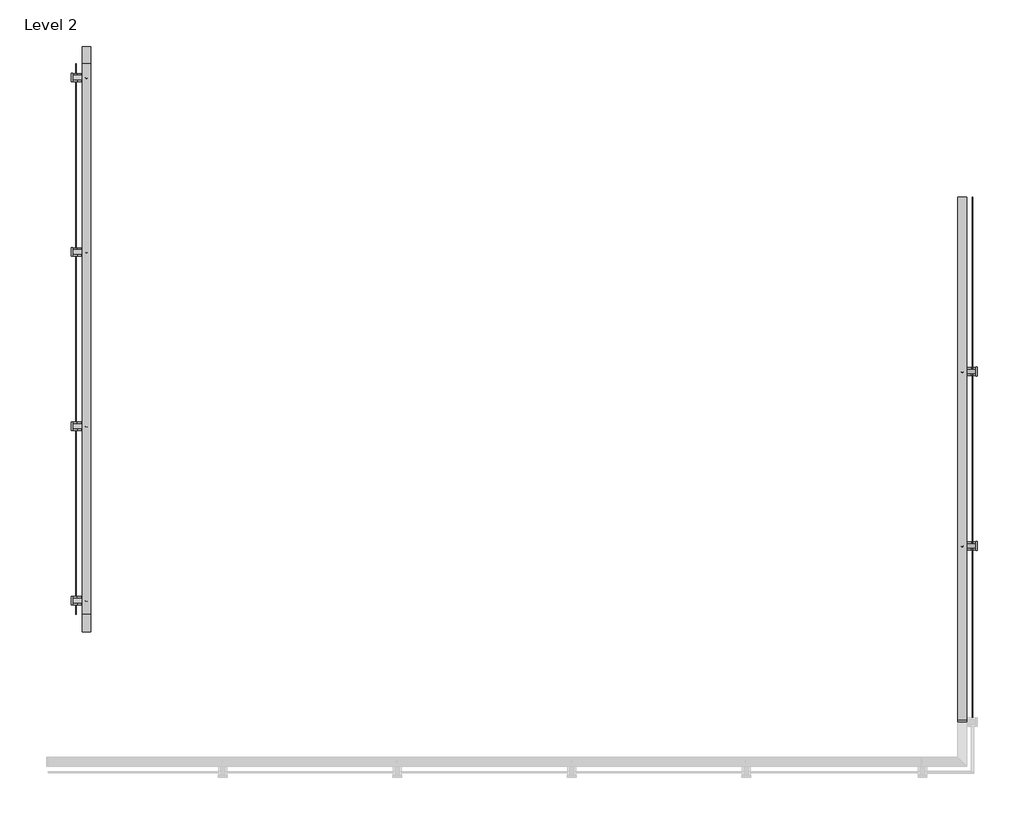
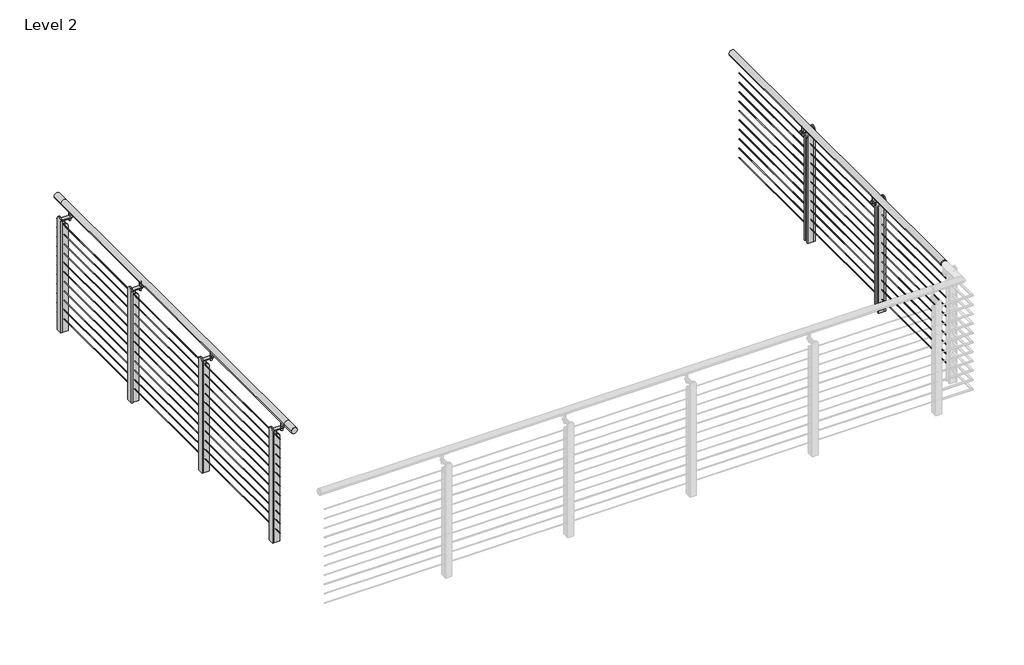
# One storey, part 12 of 12: 2 railings.
"""IFC4 building model written with IfcOpenShell, lengths in millimetres."""

from ifc_helpers import new_model, si_unit, point, frame, frame_2d, origin, place, context, project, spatial, polyline, circle_curve, trimmed, segment, composite_curve, outline, extrude, element, save
from ifc_brep_helpers import plane_surface, cylinder_surface, advanced_brep

model = new_model("IFC4")

# Units and contexts
model_context = context("Model", 3, world=origin())
ifc_project = project(units=[si_unit("LENGTHUNIT", "METRE", prefix="MILLI")], contexts=[model_context])

# Site, building, storey
site = spatial("IfcSite", under=ifc_project)
building = spatial("IfcBuilding", under=site)
storey = spatial("IfcBuildingStorey", under=building, Name="Level 2", Elevation=3048.0)

# Railings
placement = place(None, origin())
element("IfcRailing", 1, ObjectType="VIVA-TEE-Cable-Weld Mount-Straight", at=placement, inside=storey, context=model_context, shape_type="SolidModel", body=[
    advanced_brep(
    [(-8848.9177073, -335.1648568, 4102.1), (-8899.7177073, -335.1648568, 4102.1), (-8848.9177073, -233.5648568, 4102.1), (-8899.7177073, -233.5648568, 4102.1), (-8848.9177073, 2973.8965489, 4102.1), (-8899.7177073, 2973.8965489, 4102.1), (-8848.9177073, 3075.4965489, 4102.1), (-8899.7177073, 3075.4965489, 4102.1)],
    [
        (0, 1, circle_curve(frame((-8874.3177073, -335.1648568, 4102.1), z_axis=(0.0, -1.0, 0.0), x_axis=(-1.0, 0.0, 0.0)), 25.4)),
        (1, 0, circle_curve(frame((-8874.3177073, -335.1648568, 4102.1), z_axis=(0.0, -1.0, 0.0), x_axis=(-1.0, 0.0, 0.0)), 25.4)),
        (0, 2),
        (2, 3, circle_curve(frame((-8874.3177073, -233.5648568, 4102.1), z_axis=(0.0, -1.0, 0.0), x_axis=(-1.0, 0.0, 0.0)), 25.4)),
        (3, 1),
        (3, 2, circle_curve(frame((-8874.3177073, -233.5648568, 4102.1), z_axis=(0.0, -1.0, 0.0), x_axis=(-1.0, 0.0, 0.0)), 25.4)),
        (2, 4),
        (4, 5, circle_curve(frame((-8874.3177073, 2973.8965489, 4102.1), z_axis=(0.0, -1.0, 0.0), x_axis=(-1.0, 0.0, 0.0)), 25.4)),
        (5, 3),
        (5, 4, circle_curve(frame((-8874.3177073, 2973.8965489, 4102.1), z_axis=(0.0, -1.0, 0.0), x_axis=(-1.0, 0.0, 0.0)), 25.4)),
        (6, 7, circle_curve(frame((-8874.3177073, 3075.4965489, 4102.1), z_axis=(0.0, 1.0, 0.0), x_axis=(-1.0, 0.0, 0.0)), 25.4)),
        (7, 6, circle_curve(frame((-8874.3177073, 3075.4965489, 4102.1), z_axis=(0.0, 1.0, 0.0), x_axis=(-1.0, 0.0, 0.0)), 25.4)),
        (4, 6),
        (7, 5),
    ],
    [
        plane_surface(frame((-8874.3177073, -335.1648568, 4127.5), z_axis=(0.0, -1.0, 0.0), x_axis=(0.0, 0.0, 1.0))),
        cylinder_surface(frame((-8874.3177073, -335.1648568, 4102.1), z_axis=(0.0, -1.0, 0.0), x_axis=(-1.0, 0.0, 0.0)), 25.4),
        cylinder_surface(frame((-8874.3177073, -233.5648568, 4102.1), z_axis=(0.0, -1.0, 0.0), x_axis=(-1.0, 0.0, 0.0)), 25.4),
        plane_surface(frame((-8874.3177073, 3075.4965489, 4127.5), z_axis=(0.0, 1.0, 0.0), x_axis=(0.0, 0.0, 1.0))),
        cylinder_surface(frame((-8874.3177073, 2973.8965489, 4102.1), z_axis=(0.0, -1.0, 0.0), x_axis=(-1.0, 0.0, 0.0)), 25.4),
    ],
    [
        (0, [[1, 2]]),
        (1, [[-1, 3, 4, 5]]),
        (1, [[-2, -5, 6, -3]]),
        (2, [[-4, 7, 8, 9]]),
        (2, [[-6, -9, 10, -7]]),
        (3, [[11, 12]]),
        (4, [[-8, 13, -12, 14]]),
        (4, [[-10, -14, -11, -13]]),
    ],
),
    extrude(outline(composite_curve([segment(trimmed(circle_curve(frame_2d((3985.4124, -8934.6427073)), 2.3876), [point((3985.4124, -8932.2551073))], [point((3985.4124, -8937.0303073))], False, "CARTESIAN"), True, "CONTINUOUS"), segment(trimmed(circle_curve(frame_2d((3985.4124, -8934.6427073)), 2.3876), [point((3985.4124, -8937.0303073))], [point((3985.4124, -8932.2551073))], False, "CARTESIAN"), True, "CONTINUOUS")], self_intersect=False)), frame((0.0, -233.5648568, 0.0), z_axis=(0.0, 1.0, 0.0), x_axis=(0.0, 0.0, 1.0)), (0.0, 0.0, 1.0), 3207.4614057),
    extrude(outline(composite_curve([segment(trimmed(circle_curve(frame_2d((3902.8624, -8934.6427073)), 2.3876), [point((3902.8624, -8932.2551073))], [point((3902.8624, -8937.0303073))], False, "CARTESIAN"), True, "CONTINUOUS"), segment(trimmed(circle_curve(frame_2d((3902.8624, -8934.6427073)), 2.3876), [point((3902.8624, -8937.0303073))], [point((3902.8624, -8932.2551073))], False, "CARTESIAN"), True, "CONTINUOUS")], self_intersect=False)), frame((0.0, -233.5648568, 0.0), z_axis=(0.0, 1.0, 0.0), x_axis=(0.0, 0.0, 1.0)), (0.0, 0.0, 1.0), 3207.4614057),
    extrude(outline(composite_curve([segment(trimmed(circle_curve(frame_2d((3820.3124, -8934.6427073)), 2.3876), [point((3820.3124, -8932.2551073))], [point((3820.3124, -8937.0303073))], False, "CARTESIAN"), True, "CONTINUOUS"), segment(trimmed(circle_curve(frame_2d((3820.3124, -8934.6427073)), 2.3876), [point((3820.3124, -8937.0303073))], [point((3820.3124, -8932.2551073))], False, "CARTESIAN"), True, "CONTINUOUS")], self_intersect=False)), frame((0.0, -233.5648568, 0.0), z_axis=(0.0, 1.0, 0.0), x_axis=(0.0, 0.0, 1.0)), (0.0, 0.0, 1.0), 3207.4614057),
    extrude(outline(composite_curve([segment(trimmed(circle_curve(frame_2d((3737.7624, -8934.6427073)), 2.3876), [point((3737.7624, -8932.2551073))], [point((3737.7624, -8937.0303073))], False, "CARTESIAN"), True, "CONTINUOUS"), segment(trimmed(circle_curve(frame_2d((3737.7624, -8934.6427073)), 2.3876), [point((3737.7624, -8937.0303073))], [point((3737.7624, -8932.2551073))], False, "CARTESIAN"), True, "CONTINUOUS")], self_intersect=False)), frame((0.0, -233.5648568, 0.0), z_axis=(0.0, 1.0, 0.0), x_axis=(0.0, 0.0, 1.0)), (0.0, 0.0, 1.0), 3207.4614057),
    extrude(outline(composite_curve([segment(trimmed(circle_curve(frame_2d((3655.2124, -8934.6427073)), 2.3876), [point((3655.2124, -8932.2551073))], [point((3655.2124, -8937.0303073))], False, "CARTESIAN"), True, "CONTINUOUS"), segment(trimmed(circle_curve(frame_2d((3655.2124, -8934.6427073)), 2.3876), [point((3655.2124, -8937.0303073))], [point((3655.2124, -8932.2551073))], False, "CARTESIAN"), True, "CONTINUOUS")], self_intersect=False)), frame((0.0, -233.5648568, 0.0), z_axis=(0.0, 1.0, 0.0), x_axis=(0.0, 0.0, 1.0)), (0.0, 0.0, 1.0), 3207.4614057),
    extrude(outline(composite_curve([segment(trimmed(circle_curve(frame_2d((3572.6624, -8934.6427073)), 2.3876), [point((3572.6624, -8932.2551073))], [point((3572.6624, -8937.0303073))], False, "CARTESIAN"), True, "CONTINUOUS"), segment(trimmed(circle_curve(frame_2d((3572.6624, -8934.6427073)), 2.3876), [point((3572.6624, -8937.0303073))], [point((3572.6624, -8932.2551073))], False, "CARTESIAN"), True, "CONTINUOUS")], self_intersect=False)), frame((0.0, -233.5648568, 0.0), z_axis=(0.0, 1.0, 0.0), x_axis=(0.0, 0.0, 1.0)), (0.0, 0.0, 1.0), 3207.4614057),
    extrude(outline(composite_curve([segment(trimmed(circle_curve(frame_2d((3490.1124, -8934.6427073)), 2.3876), [point((3490.1124, -8932.2551073))], [point((3490.1124, -8937.0303073))], False, "CARTESIAN"), True, "CONTINUOUS"), segment(trimmed(circle_curve(frame_2d((3490.1124, -8934.6427073)), 2.3876), [point((3490.1124, -8937.0303073))], [point((3490.1124, -8932.2551073))], False, "CARTESIAN"), True, "CONTINUOUS")], self_intersect=False)), frame((0.0, -233.5648568, 0.0), z_axis=(0.0, 1.0, 0.0), x_axis=(0.0, 0.0, 1.0)), (0.0, 0.0, 1.0), 3207.4614057),
    extrude(outline(composite_curve([segment(trimmed(circle_curve(frame_2d((3407.5624, -8934.6427073)), 2.3876), [point((3407.5624, -8932.2551073))], [point((3407.5624, -8937.0303073))], False, "CARTESIAN"), True, "CONTINUOUS"), segment(trimmed(circle_curve(frame_2d((3407.5624, -8934.6427073)), 2.3876), [point((3407.5624, -8937.0303073))], [point((3407.5624, -8932.2551073))], False, "CARTESIAN"), True, "CONTINUOUS")], self_intersect=False)), frame((0.0, -233.5648568, 0.0), z_axis=(0.0, 1.0, 0.0), x_axis=(0.0, 0.0, 1.0)), (0.0, 0.0, 1.0), 3207.4614057),
    extrude(outline(composite_curve([segment(trimmed(circle_curve(frame_2d((3325.0124, -8934.6427073)), 2.3876), [point((3325.0124, -8932.2551073))], [point((3325.0124, -8937.0303073))], False, "CARTESIAN"), True, "CONTINUOUS"), segment(trimmed(circle_curve(frame_2d((3325.0124, -8934.6427073)), 2.3876), [point((3325.0124, -8937.0303073))], [point((3325.0124, -8932.2551073))], False, "CARTESIAN"), True, "CONTINUOUS")], self_intersect=False)), frame((0.0, -233.5648568, 0.0), z_axis=(0.0, 1.0, 0.0), x_axis=(0.0, 0.0, 1.0)), (0.0, 0.0, 1.0), 3207.4614057),
    extrude(outline(composite_curve([segment(trimmed(circle_curve(frame_2d((3242.4624, -8934.6427073)), 2.3876), [point((3242.4624, -8932.2551073))], [point((3242.4624, -8937.0303073))], False, "CARTESIAN"), True, "CONTINUOUS"), segment(trimmed(circle_curve(frame_2d((3242.4624, -8934.6427073)), 2.3876), [point((3242.4624, -8937.0303073))], [point((3242.4624, -8932.2551073))], False, "CARTESIAN"), True, "CONTINUOUS")], self_intersect=False)), frame((0.0, -233.5648568, 0.0), z_axis=(0.0, 1.0, 0.0), x_axis=(0.0, 0.0, 1.0)), (0.0, 0.0, 1.0), 3207.4614057),
    extrude(outline(composite_curve([segment(trimmed(circle_curve(frame_2d((3159.9124, -8934.6427073)), 2.3876), [point((3159.9124, -8932.2551073))], [point((3159.9124, -8937.0303073))], False, "CARTESIAN"), True, "CONTINUOUS"), segment(trimmed(circle_curve(frame_2d((3159.9124, -8934.6427073)), 2.3876), [point((3159.9124, -8937.0303073))], [point((3159.9124, -8932.2551073))], False, "CARTESIAN"), True, "CONTINUOUS")], self_intersect=False)), frame((0.0, -233.5648568, 0.0), z_axis=(0.0, 1.0, 0.0), x_axis=(0.0, 0.0, 1.0)), (0.0, 0.0, 1.0), 3207.4614057),
    extrude(outline(composite_curve([segment(trimmed(circle_curve(frame_2d((0.0, -7.0)), 7.0), [point((0.0, -14.0))], [point((0.0, 0.0))], False, "CARTESIAN"), True, "CONTINUOUS"), segment(trimmed(circle_curve(frame_2d((0.0, -7.0)), 7.0), [point((0.0, 0.0))], [point((0.0, -14.0))], False, "CARTESIAN"), True, "CONTINUOUS")], self_intersect=False)), frame((-8881.0275611, 2894.2395559, 3997.1832524), z_axis=(0.0, 0.004253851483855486, 0.9999909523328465), x_axis=(0.0, 0.9999909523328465, -0.004253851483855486)), (0.0, 0.0, 1.0), 75.97),
    extrude(outline(composite_curve([segment(polyline([(4081.7916463, -8887.4157453), (4080.7742593, -8888.4421349)]), True, "CONTINUOUS"), segment(trimmed(circle_curve(frame_2d((4079.7089374, -8887.3861571)), 1.5), [point((4080.7742593, -8888.4421349))], [point((4078.5780156, -8888.3715585))], False, "CARTESIAN"), True, "CONTINUOUS"), segment(trimmed(circle_curve(frame_2d((4095.2025651, -8873.8861571)), 22.05), [point((4078.5780156, -8888.3715585))], [point((4078.5780156, -8859.4007556))], False, "CARTESIAN"), True, "CONTINUOUS"), segment(trimmed(circle_curve(frame_2d((4079.7089374, -8860.3861571)), 1.5), [point((4078.5780156, -8859.4007556))], [point((4080.7742593, -8859.3301792))], False, "CARTESIAN"), True, "CONTINUOUS"), segment(polyline([(4080.7742593, -8859.3301792), (4081.7916463, -8860.3565688)]), True, "CONTINUOUS"), segment(trimmed(circle_curve(frame_2d((4095.2025651, -8873.8861571)), 19.05), [point((4081.7916463, -8860.3565688))], [point((4081.7916463, -8887.4157453))], True, "CARTESIAN"), True, "CONTINUOUS")], self_intersect=False)), frame((0.0, 2858.7010818, 0.0), z_axis=(0.0, 1.0, 0.0), x_axis=(0.0, 0.0, 1.0)), (0.0, 0.0, 1.0), 74.5229187),
    extrude(outline(composite_curve([segment(trimmed(circle_curve(frame_2d((2894.4438864, 4024.1259188)), 12.5), [point((2881.9438864, 4024.1259188))], [point((2906.9438864, 4024.1259188))], False, "CARTESIAN"), True, "CONTINUOUS"), segment(trimmed(circle_curve(frame_2d((2894.4438864, 4024.1259188)), 12.5), [point((2906.9438864, 4024.1259188))], [point((2881.9438864, 4024.1259188))], False, "CARTESIAN"), True, "CONTINUOUS")], self_intersect=False)), frame((-8953.793547, 0.0, 0.0), z_axis=(1.0, 0.0, 0.0), x_axis=(0.0, 1.0, 0.0)), (0.0, 0.0, 1.0), 92.423),
    extrude(outline(composite_curve([segment(polyline([(3997.0075, -8927.6272558), (3997.0075, -8953.6927073), (3048.0, -8953.6927073), (3048.0, -8902.8622558), (3972.2425, -8902.8622558)]), True, "CONTINUOUS"), segment(trimmed(circle_curve(frame_2d((3972.2425, -8927.6272558)), 24.765), [point((3972.2425, -8902.8622558))], [point((3997.0075, -8927.6272558))], False, "CARTESIAN"), True, "CONTINUOUS")], self_intersect=False)), frame((0.0, 2908.5662206, 0.0), z_axis=(0.0, 1.0, 0.0), x_axis=(0.0, 0.0, 1.0)), (0.0, 0.0, 1.0), 9.525),
    extrude(outline(composite_curve([segment(polyline([(2919.962721, 3048.0), (2869.162721, 3048.0), (2869.162721, 4027.17)]), True, "CONTINUOUS"), segment(trimmed(circle_curve(frame_2d((2894.562721, 4027.17)), 25.4), [point((2869.162721, 4027.17))], [point((2919.962721, 4027.17))], False, "CARTESIAN"), True, "CONTINUOUS"), segment(polyline([(2919.962721, 4027.17), (2919.962721, 3048.0)]), True, "CONTINUOUS")], self_intersect=False)), frame((-8963.2177073, 0.0, 0.0), z_axis=(1.0, 0.0, 0.0), x_axis=(0.0, 1.0, 0.0)), (0.0, 0.0, 1.0), 9.525),
    extrude(outline(composite_curve([segment(polyline([(3997.0075, -8927.6272558), (3997.0075, -8953.6927073), (3048.0, -8953.6927073), (3048.0, -8902.8622558), (3972.2425, -8902.8622558)]), True, "CONTINUOUS"), segment(trimmed(circle_curve(frame_2d((3972.2425, -8927.6272558)), 24.765), [point((3972.2425, -8902.8622558))], [point((3997.0075, -8927.6272558))], False, "CARTESIAN"), True, "CONTINUOUS")], self_intersect=False)), frame((0.0, 2871.0342215, 0.0), z_axis=(0.0, 1.0, 0.0), x_axis=(0.0, 0.0, 1.0)), (0.0, 0.0, 1.0), 9.525),
    extrude(outline(composite_curve([segment(trimmed(circle_curve(frame_2d((0.0, -7.0)), 7.0), [point((0.0, -14.0))], [point((0.0, 0.0))], False, "CARTESIAN"), True, "CONTINUOUS"), segment(trimmed(circle_curve(frame_2d((0.0, -7.0)), 7.0), [point((0.0, 0.0))], [point((0.0, -14.0))], False, "CARTESIAN"), True, "CONTINUOUS")], self_intersect=False)), frame((-8881.0275611, 1878.2395559, 3997.1832524), z_axis=(0.0, 0.004253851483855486, 0.9999909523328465), x_axis=(0.0, 0.9999909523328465, -0.004253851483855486)), (0.0, 0.0, 1.0), 75.97),
    extrude(outline(composite_curve([segment(polyline([(4081.7916463, -8887.4157453), (4080.7742593, -8888.4421349)]), True, "CONTINUOUS"), segment(trimmed(circle_curve(frame_2d((4079.7089374, -8887.3861571)), 1.5), [point((4080.7742593, -8888.4421349))], [point((4078.5780156, -8888.3715585))], False, "CARTESIAN"), True, "CONTINUOUS"), segment(trimmed(circle_curve(frame_2d((4095.2025651, -8873.8861571)), 22.05), [point((4078.5780156, -8888.3715585))], [point((4078.5780156, -8859.4007556))], False, "CARTESIAN"), True, "CONTINUOUS"), segment(trimmed(circle_curve(frame_2d((4079.7089374, -8860.3861571)), 1.5), [point((4078.5780156, -8859.4007556))], [point((4080.7742593, -8859.3301792))], False, "CARTESIAN"), True, "CONTINUOUS"), segment(polyline([(4080.7742593, -8859.3301792), (4081.7916463, -8860.3565688)]), True, "CONTINUOUS"), segment(trimmed(circle_curve(frame_2d((4095.2025651, -8873.8861571)), 19.05), [point((4081.7916463, -8860.3565688))], [point((4081.7916463, -8887.4157453))], True, "CARTESIAN"), True, "CONTINUOUS")], self_intersect=False)), frame((0.0, 1842.7010818, 0.0), z_axis=(0.0, 1.0, 0.0), x_axis=(0.0, 0.0, 1.0)), (0.0, 0.0, 1.0), 74.5229187),
    extrude(outline(composite_curve([segment(trimmed(circle_curve(frame_2d((1878.4438864, 4024.1259188)), 12.5), [point((1865.9438864, 4024.1259188))], [point((1890.9438864, 4024.1259188))], False, "CARTESIAN"), True, "CONTINUOUS"), segment(trimmed(circle_curve(frame_2d((1878.4438864, 4024.1259188)), 12.5), [point((1890.9438864, 4024.1259188))], [point((1865.9438864, 4024.1259188))], False, "CARTESIAN"), True, "CONTINUOUS")], self_intersect=False)), frame((-8953.793547, 0.0, 0.0), z_axis=(1.0, 0.0, 0.0), x_axis=(0.0, 1.0, 0.0)), (0.0, 0.0, 1.0), 92.423),
    extrude(outline(composite_curve([segment(polyline([(3997.0075, -8927.6272558), (3997.0075, -8953.6927073), (3048.0, -8953.6927073), (3048.0, -8902.8622558), (3972.2425, -8902.8622558)]), True, "CONTINUOUS"), segment(trimmed(circle_curve(frame_2d((3972.2425, -8927.6272558)), 24.765), [point((3972.2425, -8902.8622558))], [point((3997.0075, -8927.6272558))], False, "CARTESIAN"), True, "CONTINUOUS")], self_intersect=False)), frame((0.0, 1892.5662206, 0.0), z_axis=(0.0, 1.0, 0.0), x_axis=(0.0, 0.0, 1.0)), (0.0, 0.0, 1.0), 9.525),
    extrude(outline(composite_curve([segment(polyline([(1903.962721, 3048.0), (1853.162721, 3048.0), (1853.162721, 4027.17)]), True, "CONTINUOUS"), segment(trimmed(circle_curve(frame_2d((1878.562721, 4027.17)), 25.4), [point((1853.162721, 4027.17))], [point((1903.962721, 4027.17))], False, "CARTESIAN"), True, "CONTINUOUS"), segment(polyline([(1903.962721, 4027.17), (1903.962721, 3048.0)]), True, "CONTINUOUS")], self_intersect=False)), frame((-8963.2177073, 0.0, 0.0), z_axis=(1.0, 0.0, 0.0), x_axis=(0.0, 1.0, 0.0)), (0.0, 0.0, 1.0), 9.525),
    extrude(outline(composite_curve([segment(polyline([(3997.0075, -8927.6272558), (3997.0075, -8953.6927073), (3048.0, -8953.6927073), (3048.0, -8902.8622558), (3972.2425, -8902.8622558)]), True, "CONTINUOUS"), segment(trimmed(circle_curve(frame_2d((3972.2425, -8927.6272558)), 24.765), [point((3972.2425, -8902.8622558))], [point((3997.0075, -8927.6272558))], False, "CARTESIAN"), True, "CONTINUOUS")], self_intersect=False)), frame((0.0, 1855.0342215, 0.0), z_axis=(0.0, 1.0, 0.0), x_axis=(0.0, 0.0, 1.0)), (0.0, 0.0, 1.0), 9.525),
    extrude(outline(composite_curve([segment(trimmed(circle_curve(frame_2d((0.0, -7.0)), 7.0), [point((0.0, -14.0))], [point((0.0, 0.0))], False, "CARTESIAN"), True, "CONTINUOUS"), segment(trimmed(circle_curve(frame_2d((0.0, -7.0)), 7.0), [point((0.0, 0.0))], [point((0.0, -14.0))], False, "CARTESIAN"), True, "CONTINUOUS")], self_intersect=False)), frame((-8881.0275611, 862.2395559, 3997.1832524), z_axis=(0.0, 0.004253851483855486, 0.9999909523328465), x_axis=(0.0, 0.9999909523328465, -0.004253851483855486)), (0.0, 0.0, 1.0), 75.97),
    extrude(outline(composite_curve([segment(polyline([(4081.7916463, -8887.4157453), (4080.7742593, -8888.4421349)]), True, "CONTINUOUS"), segment(trimmed(circle_curve(frame_2d((4079.7089374, -8887.3861571)), 1.5), [point((4080.7742593, -8888.4421349))], [point((4078.5780156, -8888.3715585))], False, "CARTESIAN"), True, "CONTINUOUS"), segment(trimmed(circle_curve(frame_2d((4095.2025651, -8873.8861571)), 22.05), [point((4078.5780156, -8888.3715585))], [point((4078.5780156, -8859.4007556))], False, "CARTESIAN"), True, "CONTINUOUS"), segment(trimmed(circle_curve(frame_2d((4079.7089374, -8860.3861571)), 1.5), [point((4078.5780156, -8859.4007556))], [point((4080.7742593, -8859.3301792))], False, "CARTESIAN"), True, "CONTINUOUS"), segment(polyline([(4080.7742593, -8859.3301792), (4081.7916463, -8860.3565688)]), True, "CONTINUOUS"), segment(trimmed(circle_curve(frame_2d((4095.2025651, -8873.8861571)), 19.05), [point((4081.7916463, -8860.3565688))], [point((4081.7916463, -8887.4157453))], True, "CARTESIAN"), True, "CONTINUOUS")], self_intersect=False)), frame((0.0, 826.7010818, 0.0), z_axis=(0.0, 1.0, 0.0), x_axis=(0.0, 0.0, 1.0)), (0.0, 0.0, 1.0), 74.5229187),
    extrude(outline(composite_curve([segment(trimmed(circle_curve(frame_2d((862.4438864, 4024.1259188)), 12.5), [point((849.9438864, 4024.1259188))], [point((874.9438864, 4024.1259188))], False, "CARTESIAN"), True, "CONTINUOUS"), segment(trimmed(circle_curve(frame_2d((862.4438864, 4024.1259188)), 12.5), [point((874.9438864, 4024.1259188))], [point((849.9438864, 4024.1259188))], False, "CARTESIAN"), True, "CONTINUOUS")], self_intersect=False)), frame((-8953.793547, 0.0, 0.0), z_axis=(1.0, 0.0, 0.0), x_axis=(0.0, 1.0, 0.0)), (0.0, 0.0, 1.0), 92.423),
    extrude(outline(composite_curve([segment(polyline([(3997.0075, -8927.6272558), (3997.0075, -8953.6927073), (3048.0, -8953.6927073), (3048.0, -8902.8622558), (3972.2425, -8902.8622558)]), True, "CONTINUOUS"), segment(trimmed(circle_curve(frame_2d((3972.2425, -8927.6272558)), 24.765), [point((3972.2425, -8902.8622558))], [point((3997.0075, -8927.6272558))], False, "CARTESIAN"), True, "CONTINUOUS")], self_intersect=False)), frame((0.0, 876.5662206, 0.0), z_axis=(0.0, 1.0, 0.0), x_axis=(0.0, 0.0, 1.0)), (0.0, 0.0, 1.0), 9.525),
    extrude(outline(composite_curve([segment(polyline([(887.962721, 3048.0), (837.162721, 3048.0), (837.162721, 4027.17)]), True, "CONTINUOUS"), segment(trimmed(circle_curve(frame_2d((862.562721, 4027.17)), 25.4), [point((837.162721, 4027.17))], [point((887.962721, 4027.17))], False, "CARTESIAN"), True, "CONTINUOUS"), segment(polyline([(887.962721, 4027.17), (887.962721, 3048.0)]), True, "CONTINUOUS")], self_intersect=False)), frame((-8963.2177073, 0.0, 0.0), z_axis=(1.0, 0.0, 0.0), x_axis=(0.0, 1.0, 0.0)), (0.0, 0.0, 1.0), 9.525),
    extrude(outline(composite_curve([segment(polyline([(3997.0075, -8927.6272558), (3997.0075, -8953.6927073), (3048.0, -8953.6927073), (3048.0, -8902.8622558), (3972.2425, -8902.8622558)]), True, "CONTINUOUS"), segment(trimmed(circle_curve(frame_2d((3972.2425, -8927.6272558)), 24.765), [point((3972.2425, -8902.8622558))], [point((3997.0075, -8927.6272558))], False, "CARTESIAN"), True, "CONTINUOUS")], self_intersect=False)), frame((0.0, 839.0342215, 0.0), z_axis=(0.0, 1.0, 0.0), x_axis=(0.0, 0.0, 1.0)), (0.0, 0.0, 1.0), 9.525),
    extrude(outline(composite_curve([segment(trimmed(circle_curve(frame_2d((0.0, -7.0)), 7.0), [point((0.0, -14.0))], [point((0.0, 0.0))], False, "CARTESIAN"), True, "CONTINUOUS"), segment(trimmed(circle_curve(frame_2d((0.0, -7.0)), 7.0), [point((0.0, 0.0))], [point((0.0, -14.0))], False, "CARTESIAN"), True, "CONTINUOUS")], self_intersect=False)), frame((-8881.0275611, -153.7604441, 3997.1832524), z_axis=(0.0, 0.004253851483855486, 0.9999909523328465), x_axis=(0.0, 0.9999909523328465, -0.004253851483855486)), (0.0, 0.0, 1.0), 75.97),
    extrude(outline(composite_curve([segment(polyline([(4081.7916463, -8887.4157453), (4080.7742593, -8888.4421349)]), True, "CONTINUOUS"), segment(trimmed(circle_curve(frame_2d((4079.7089374, -8887.3861571)), 1.5), [point((4080.7742593, -8888.4421349))], [point((4078.5780156, -8888.3715585))], False, "CARTESIAN"), True, "CONTINUOUS"), segment(trimmed(circle_curve(frame_2d((4095.2025651, -8873.8861571)), 22.05), [point((4078.5780156, -8888.3715585))], [point((4078.5780156, -8859.4007556))], False, "CARTESIAN"), True, "CONTINUOUS"), segment(trimmed(circle_curve(frame_2d((4079.7089374, -8860.3861571)), 1.5), [point((4078.5780156, -8859.4007556))], [point((4080.7742593, -8859.3301792))], False, "CARTESIAN"), True, "CONTINUOUS"), segment(polyline([(4080.7742593, -8859.3301792), (4081.7916463, -8860.3565688)]), True, "CONTINUOUS"), segment(trimmed(circle_curve(frame_2d((4095.2025651, -8873.8861571)), 19.05), [point((4081.7916463, -8860.3565688))], [point((4081.7916463, -8887.4157453))], True, "CARTESIAN"), True, "CONTINUOUS")], self_intersect=False)), frame((0.0, -189.2989182, 0.0), z_axis=(0.0, 1.0, 0.0), x_axis=(0.0, 0.0, 1.0)), (0.0, 0.0, 1.0), 74.5229187),
    extrude(outline(composite_curve([segment(trimmed(circle_curve(frame_2d((-153.5561136, 4024.1259188)), 12.5), [point((-166.0561136, 4024.1259188))], [point((-141.0561136, 4024.1259188))], False, "CARTESIAN"), True, "CONTINUOUS"), segment(trimmed(circle_curve(frame_2d((-153.5561136, 4024.1259188)), 12.5), [point((-141.0561136, 4024.1259188))], [point((-166.0561136, 4024.1259188))], False, "CARTESIAN"), True, "CONTINUOUS")], self_intersect=False)), frame((-8953.793547, 0.0, 0.0), z_axis=(1.0, 0.0, 0.0), x_axis=(0.0, 1.0, 0.0)), (0.0, 0.0, 1.0), 92.423),
    extrude(outline(composite_curve([segment(polyline([(3997.0075, -8927.6272558), (3997.0075, -8953.6927073), (3048.0, -8953.6927073), (3048.0, -8902.8622558), (3972.2425, -8902.8622558)]), True, "CONTINUOUS"), segment(trimmed(circle_curve(frame_2d((3972.2425, -8927.6272558)), 24.765), [point((3972.2425, -8902.8622558))], [point((3997.0075, -8927.6272558))], False, "CARTESIAN"), True, "CONTINUOUS")], self_intersect=False)), frame((0.0, -139.4337794, 0.0), z_axis=(0.0, 1.0, 0.0), x_axis=(0.0, 0.0, 1.0)), (0.0, 0.0, 1.0), 9.525),
    extrude(outline(composite_curve([segment(polyline([(-128.037279, 3048.0), (-178.837279, 3048.0), (-178.837279, 4027.17)]), True, "CONTINUOUS"), segment(trimmed(circle_curve(frame_2d((-153.437279, 4027.17)), 25.4), [point((-178.837279, 4027.17))], [point((-128.037279, 4027.17))], False, "CARTESIAN"), True, "CONTINUOUS"), segment(polyline([(-128.037279, 4027.17), (-128.037279, 3048.0)]), True, "CONTINUOUS")], self_intersect=False)), frame((-8963.2177073, 0.0, 0.0), z_axis=(1.0, 0.0, 0.0), x_axis=(0.0, 1.0, 0.0)), (0.0, 0.0, 1.0), 9.525),
    extrude(outline(composite_curve([segment(polyline([(3997.0075, -8927.6272558), (3997.0075, -8953.6927073), (3048.0, -8953.6927073), (3048.0, -8902.8622558), (3972.2425, -8902.8622558)]), True, "CONTINUOUS"), segment(trimmed(circle_curve(frame_2d((3972.2425, -8927.6272558)), 24.765), [point((3972.2425, -8902.8622558))], [point((3997.0075, -8927.6272558))], False, "CARTESIAN"), True, "CONTINUOUS")], self_intersect=False)), frame((0.0, -176.9657785, 0.0), z_axis=(0.0, 1.0, 0.0), x_axis=(0.0, 0.0, 1.0)), (0.0, 0.0, 1.0), 9.525),
])
element("IfcRailing", 2, ObjectType="VIVA-TEE-Cable-Weld Mount-Straight", at=placement, inside=storey, context=model_context, shape_type="SolidModel", body=[
    advanced_brep(
    [(-3748.300548, -861.5034511, 4102.1), (-3799.100548, -861.5034511, 4102.1), (-3748.300548, -851.0718265, 4102.1), (-3799.100548, -851.0718265, 4102.1), (-3748.300548, 2196.9281735, 4102.1), (-3799.100548, 2196.9281735, 4102.1)],
    [
        (0, 1, circle_curve(frame((-3773.700548, -861.5034511, 4102.1), z_axis=(0.0, -1.0, 0.0), x_axis=(-1.0, 0.0, 0.0)), 25.4)),
        (1, 0, circle_curve(frame((-3773.700548, -861.5034511, 4102.1), z_axis=(0.0, -1.0, 0.0), x_axis=(-1.0, 0.0, 0.0)), 25.4)),
        (0, 2),
        (2, 3, circle_curve(frame((-3773.700548, -851.0718265, 4102.1), z_axis=(0.0, -1.0, 0.0), x_axis=(-1.0, 0.0, 0.0)), 25.4)),
        (3, 1),
        (3, 2, circle_curve(frame((-3773.700548, -851.0718265, 4102.1), z_axis=(0.0, -1.0, 0.0), x_axis=(-1.0, 0.0, 0.0)), 25.4)),
        (4, 5, circle_curve(frame((-3773.700548, 2196.9281735, 4102.1), z_axis=(0.0, 1.0, 0.0), x_axis=(-1.0, 0.0, 0.0)), 25.4)),
        (5, 4, circle_curve(frame((-3773.700548, 2196.9281735, 4102.1), z_axis=(0.0, 1.0, 0.0), x_axis=(-1.0, 0.0, 0.0)), 25.4)),
        (2, 4),
        (5, 3),
    ],
    [
        plane_surface(frame((-3773.700548, -861.5034511, 4127.5), z_axis=(0.0, -1.0, 0.0), x_axis=(0.0, 0.0, 1.0))),
        cylinder_surface(frame((-3773.700548, -861.5034511, 4102.1), z_axis=(0.0, -1.0, 0.0), x_axis=(-1.0, 0.0, 0.0)), 25.4),
        plane_surface(frame((-3773.700548, 2196.9281735, 4127.5), z_axis=(0.0, 1.0, 0.0), x_axis=(0.0, 0.0, 1.0))),
        cylinder_surface(frame((-3773.700548, -851.0718265, 4102.1), z_axis=(0.0, -1.0, 0.0), x_axis=(-1.0, 0.0, 0.0)), 25.4),
    ],
    [
        (0, [[1, 2]]),
        (1, [[-1, 3, 4, 5]]),
        (1, [[-2, -5, 6, -3]]),
        (2, [[7, 8]]),
        (3, [[-4, 9, -8, 10]]),
        (3, [[-6, -10, -7, -9]]),
    ],
),
    extrude(outline(composite_curve([segment(trimmed(circle_curve(frame_2d((3985.4124, -3713.375548)), 2.3876), [point((3985.4124, -3715.763148))], [point((3985.4124, -3710.987948))], False, "CARTESIAN"), True, "CONTINUOUS"), segment(trimmed(circle_curve(frame_2d((3985.4124, -3713.375548)), 2.3876), [point((3985.4124, -3710.987948))], [point((3985.4124, -3715.763148))], False, "CARTESIAN"), True, "CONTINUOUS")], self_intersect=False)), frame((0.0, -851.0718265, 0.0), z_axis=(0.0, 1.0, 0.0), x_axis=(0.0, 0.0, 1.0)), (0.0, 0.0, 1.0), 3048.0),
    extrude(outline(composite_curve([segment(trimmed(circle_curve(frame_2d((3902.8624, -3713.375548)), 2.3876), [point((3902.8624, -3715.763148))], [point((3902.8624, -3710.987948))], False, "CARTESIAN"), True, "CONTINUOUS"), segment(trimmed(circle_curve(frame_2d((3902.8624, -3713.375548)), 2.3876), [point((3902.8624, -3710.987948))], [point((3902.8624, -3715.763148))], False, "CARTESIAN"), True, "CONTINUOUS")], self_intersect=False)), frame((0.0, -851.0718265, 0.0), z_axis=(0.0, 1.0, 0.0), x_axis=(0.0, 0.0, 1.0)), (0.0, 0.0, 1.0), 3048.0),
    extrude(outline(composite_curve([segment(trimmed(circle_curve(frame_2d((3820.3124, -3713.375548)), 2.3876), [point((3820.3124, -3715.763148))], [point((3820.3124, -3710.987948))], False, "CARTESIAN"), True, "CONTINUOUS"), segment(trimmed(circle_curve(frame_2d((3820.3124, -3713.375548)), 2.3876), [point((3820.3124, -3710.987948))], [point((3820.3124, -3715.763148))], False, "CARTESIAN"), True, "CONTINUOUS")], self_intersect=False)), frame((0.0, -851.0718265, 0.0), z_axis=(0.0, 1.0, 0.0), x_axis=(0.0, 0.0, 1.0)), (0.0, 0.0, 1.0), 3048.0),
    extrude(outline(composite_curve([segment(trimmed(circle_curve(frame_2d((3737.7624, -3713.375548)), 2.3876), [point((3737.7624, -3715.763148))], [point((3737.7624, -3710.987948))], False, "CARTESIAN"), True, "CONTINUOUS"), segment(trimmed(circle_curve(frame_2d((3737.7624, -3713.375548)), 2.3876), [point((3737.7624, -3710.987948))], [point((3737.7624, -3715.763148))], False, "CARTESIAN"), True, "CONTINUOUS")], self_intersect=False)), frame((0.0, -851.0718265, 0.0), z_axis=(0.0, 1.0, 0.0), x_axis=(0.0, 0.0, 1.0)), (0.0, 0.0, 1.0), 3048.0),
    extrude(outline(composite_curve([segment(trimmed(circle_curve(frame_2d((3655.2124, -3713.375548)), 2.3876), [point((3655.2124, -3715.763148))], [point((3655.2124, -3710.987948))], False, "CARTESIAN"), True, "CONTINUOUS"), segment(trimmed(circle_curve(frame_2d((3655.2124, -3713.375548)), 2.3876), [point((3655.2124, -3710.987948))], [point((3655.2124, -3715.763148))], False, "CARTESIAN"), True, "CONTINUOUS")], self_intersect=False)), frame((0.0, -851.0718265, 0.0), z_axis=(0.0, 1.0, 0.0), x_axis=(0.0, 0.0, 1.0)), (0.0, 0.0, 1.0), 3048.0),
    extrude(outline(composite_curve([segment(trimmed(circle_curve(frame_2d((3572.6624, -3713.375548)), 2.3876), [point((3572.6624, -3715.763148))], [point((3572.6624, -3710.987948))], False, "CARTESIAN"), True, "CONTINUOUS"), segment(trimmed(circle_curve(frame_2d((3572.6624, -3713.375548)), 2.3876), [point((3572.6624, -3710.987948))], [point((3572.6624, -3715.763148))], False, "CARTESIAN"), True, "CONTINUOUS")], self_intersect=False)), frame((0.0, -851.0718265, 0.0), z_axis=(0.0, 1.0, 0.0), x_axis=(0.0, 0.0, 1.0)), (0.0, 0.0, 1.0), 3048.0),
    extrude(outline(composite_curve([segment(trimmed(circle_curve(frame_2d((3490.1124, -3713.375548)), 2.3876), [point((3490.1124, -3715.763148))], [point((3490.1124, -3710.987948))], False, "CARTESIAN"), True, "CONTINUOUS"), segment(trimmed(circle_curve(frame_2d((3490.1124, -3713.375548)), 2.3876), [point((3490.1124, -3710.987948))], [point((3490.1124, -3715.763148))], False, "CARTESIAN"), True, "CONTINUOUS")], self_intersect=False)), frame((0.0, -851.0718265, 0.0), z_axis=(0.0, 1.0, 0.0), x_axis=(0.0, 0.0, 1.0)), (0.0, 0.0, 1.0), 3048.0),
    extrude(outline(composite_curve([segment(trimmed(circle_curve(frame_2d((3407.5624, -3713.375548)), 2.3876), [point((3407.5624, -3715.763148))], [point((3407.5624, -3710.987948))], False, "CARTESIAN"), True, "CONTINUOUS"), segment(trimmed(circle_curve(frame_2d((3407.5624, -3713.375548)), 2.3876), [point((3407.5624, -3710.987948))], [point((3407.5624, -3715.763148))], False, "CARTESIAN"), True, "CONTINUOUS")], self_intersect=False)), frame((0.0, -851.0718265, 0.0), z_axis=(0.0, 1.0, 0.0), x_axis=(0.0, 0.0, 1.0)), (0.0, 0.0, 1.0), 3048.0),
    extrude(outline(composite_curve([segment(trimmed(circle_curve(frame_2d((3325.0124, -3713.375548)), 2.3876), [point((3325.0124, -3715.763148))], [point((3325.0124, -3710.987948))], False, "CARTESIAN"), True, "CONTINUOUS"), segment(trimmed(circle_curve(frame_2d((3325.0124, -3713.375548)), 2.3876), [point((3325.0124, -3710.987948))], [point((3325.0124, -3715.763148))], False, "CARTESIAN"), True, "CONTINUOUS")], self_intersect=False)), frame((0.0, -851.0718265, 0.0), z_axis=(0.0, 1.0, 0.0), x_axis=(0.0, 0.0, 1.0)), (0.0, 0.0, 1.0), 3048.0),
    extrude(outline(composite_curve([segment(trimmed(circle_curve(frame_2d((3242.4624, -3713.375548)), 2.3876), [point((3242.4624, -3715.763148))], [point((3242.4624, -3710.987948))], False, "CARTESIAN"), True, "CONTINUOUS"), segment(trimmed(circle_curve(frame_2d((3242.4624, -3713.375548)), 2.3876), [point((3242.4624, -3710.987948))], [point((3242.4624, -3715.763148))], False, "CARTESIAN"), True, "CONTINUOUS")], self_intersect=False)), frame((0.0, -851.0718265, 0.0), z_axis=(0.0, 1.0, 0.0), x_axis=(0.0, 0.0, 1.0)), (0.0, 0.0, 1.0), 3048.0),
    extrude(outline(composite_curve([segment(trimmed(circle_curve(frame_2d((3159.9124, -3713.375548)), 2.3876), [point((3159.9124, -3715.763148))], [point((3159.9124, -3710.987948))], False, "CARTESIAN"), True, "CONTINUOUS"), segment(trimmed(circle_curve(frame_2d((3159.9124, -3713.375548)), 2.3876), [point((3159.9124, -3710.987948))], [point((3159.9124, -3715.763148))], False, "CARTESIAN"), True, "CONTINUOUS")], self_intersect=False)), frame((0.0, -851.0718265, 0.0), z_axis=(0.0, 1.0, 0.0), x_axis=(0.0, 0.0, 1.0)), (0.0, 0.0, 1.0), 3048.0),
    extrude(outline(composite_curve([segment(trimmed(circle_curve(frame_2d((0.0, 7.0)), 7.0), [point((0.0, 14.0))], [point((0.0, 0.0))], False, "CARTESIAN"), True, "CONTINUOUS"), segment(trimmed(circle_curve(frame_2d((0.0, 7.0)), 7.0), [point((0.0, 0.0))], [point((0.0, 14.0))], False, "CARTESIAN"), True, "CONTINUOUS")], self_intersect=False)), frame((-3766.9906942, 1181.0018834, 3997.1832524), z_axis=(0.0, 0.004253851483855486, 0.9999909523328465), x_axis=(0.0, 0.9999909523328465, -0.004253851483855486)), (0.0, 0.0, 1.0), 75.97),
    extrude(outline(composite_curve([segment(trimmed(circle_curve(frame_2d((4095.2025651, -3774.1320982)), 19.05), [point((4081.7916463, -3760.60251))], [point((4081.7916463, -3787.6616864))], True, "CARTESIAN"), True, "CONTINUOUS"), segment(polyline([(4081.7916463, -3787.6616864), (4080.7742593, -3788.688076)]), True, "CONTINUOUS"), segment(trimmed(circle_curve(frame_2d((4079.7089374, -3787.6320982)), 1.5), [point((4080.7742593, -3788.688076))], [point((4078.5780156, -3788.6174996))], False, "CARTESIAN"), True, "CONTINUOUS"), segment(trimmed(circle_curve(frame_2d((4095.2025651, -3774.1320982)), 22.05), [point((4078.5780156, -3788.6174996))], [point((4078.5780156, -3759.6466967))], False, "CARTESIAN"), True, "CONTINUOUS"), segment(trimmed(circle_curve(frame_2d((4079.7089374, -3760.6320982)), 1.5), [point((4078.5780156, -3759.6466967))], [point((4080.7742593, -3759.5761203))], False, "CARTESIAN"), True, "CONTINUOUS"), segment(polyline([(4080.7742593, -3759.5761203), (4081.7916463, -3760.60251)]), True, "CONTINUOUS")], self_intersect=False)), frame((0.0, 1145.4634092, 0.0), z_axis=(0.0, 1.0, 0.0), x_axis=(0.0, 0.0, 1.0)), (0.0, 0.0, 1.0), 74.5229187),
    extrude(outline(composite_curve([segment(trimmed(circle_curve(frame_2d((1181.2062138, 4024.1259188)), 12.5), [point((1168.7062138, 4024.1259188))], [point((1193.7062138, 4024.1259188))], False, "CARTESIAN"), True, "CONTINUOUS"), segment(trimmed(circle_curve(frame_2d((1181.2062138, 4024.1259188)), 12.5), [point((1193.7062138, 4024.1259188))], [point((1168.7062138, 4024.1259188))], False, "CARTESIAN"), True, "CONTINUOUS")], self_intersect=False)), frame((-3786.6477082, 0.0, 0.0), z_axis=(1.0, 0.0, 0.0), x_axis=(0.0, 1.0, 0.0)), (0.0, 0.0, 1.0), 92.423),
    extrude(outline(composite_curve([segment(trimmed(circle_curve(frame_2d((3972.2425, -3720.3909995)), 24.765), [point((3997.0075, -3720.3909995))], [point((3972.2425, -3745.1559995))], False, "CARTESIAN"), True, "CONTINUOUS"), segment(polyline([(3972.2425, -3745.1559995), (3048.0, -3745.1559995), (3048.0, -3694.325548), (3997.0075, -3694.325548), (3997.0075, -3720.3909995)]), True, "CONTINUOUS")], self_intersect=False)), frame((0.0, 1195.328548, 0.0), z_axis=(0.0, 1.0, 0.0), x_axis=(0.0, 0.0, 1.0)), (0.0, 0.0, 1.0), 9.525),
    extrude(outline(composite_curve([segment(polyline([(1206.7250485, 3048.0), (1155.9250485, 3048.0), (1155.9250485, 4027.17)]), True, "CONTINUOUS"), segment(trimmed(circle_curve(frame_2d((1181.3250485, 4027.17)), 25.4), [point((1155.9250485, 4027.17))], [point((1206.7250485, 4027.17))], False, "CARTESIAN"), True, "CONTINUOUS"), segment(polyline([(1206.7250485, 4027.17), (1206.7250485, 3048.0)]), True, "CONTINUOUS")], self_intersect=False)), frame((-3694.325548, 0.0, 0.0), z_axis=(1.0, 0.0, 0.0), x_axis=(0.0, 1.0, 0.0)), (0.0, 0.0, 1.0), 9.525),
    extrude(outline(composite_curve([segment(trimmed(circle_curve(frame_2d((3972.2425, -3720.3909995)), 24.765), [point((3997.0075, -3720.3909995))], [point((3972.2425, -3745.1559995))], False, "CARTESIAN"), True, "CONTINUOUS"), segment(polyline([(3972.2425, -3745.1559995), (3048.0, -3745.1559995), (3048.0, -3694.325548), (3997.0075, -3694.325548), (3997.0075, -3720.3909995)]), True, "CONTINUOUS")], self_intersect=False)), frame((0.0, 1157.7965489, 0.0), z_axis=(0.0, 1.0, 0.0), x_axis=(0.0, 0.0, 1.0)), (0.0, 0.0, 1.0), 9.525),
    extrude(outline(composite_curve([segment(trimmed(circle_curve(frame_2d((0.0, 7.0)), 7.0), [point((0.0, 14.0))], [point((0.0, 0.0))], False, "CARTESIAN"), True, "CONTINUOUS"), segment(trimmed(circle_curve(frame_2d((0.0, 7.0)), 7.0), [point((0.0, 0.0))], [point((0.0, 14.0))], False, "CARTESIAN"), True, "CONTINUOUS")], self_intersect=False)), frame((-3766.9906942, 165.0018834, 3997.1832524), z_axis=(0.0, 0.004253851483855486, 0.9999909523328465), x_axis=(0.0, 0.9999909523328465, -0.004253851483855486)), (0.0, 0.0, 1.0), 75.97),
    extrude(outline(composite_curve([segment(trimmed(circle_curve(frame_2d((4095.2025651, -3774.1320982)), 19.05), [point((4081.7916463, -3760.60251))], [point((4081.7916463, -3787.6616864))], True, "CARTESIAN"), True, "CONTINUOUS"), segment(polyline([(4081.7916463, -3787.6616864), (4080.7742593, -3788.688076)]), True, "CONTINUOUS"), segment(trimmed(circle_curve(frame_2d((4079.7089374, -3787.6320982)), 1.5), [point((4080.7742593, -3788.688076))], [point((4078.5780156, -3788.6174996))], False, "CARTESIAN"), True, "CONTINUOUS"), segment(trimmed(circle_curve(frame_2d((4095.2025651, -3774.1320982)), 22.05), [point((4078.5780156, -3788.6174996))], [point((4078.5780156, -3759.6466967))], False, "CARTESIAN"), True, "CONTINUOUS"), segment(trimmed(circle_curve(frame_2d((4079.7089374, -3760.6320982)), 1.5), [point((4078.5780156, -3759.6466967))], [point((4080.7742593, -3759.5761203))], False, "CARTESIAN"), True, "CONTINUOUS"), segment(polyline([(4080.7742593, -3759.5761203), (4081.7916463, -3760.60251)]), True, "CONTINUOUS")], self_intersect=False)), frame((0.0, 129.4634092, 0.0), z_axis=(0.0, 1.0, 0.0), x_axis=(0.0, 0.0, 1.0)), (0.0, 0.0, 1.0), 74.5229187),
    extrude(outline(composite_curve([segment(trimmed(circle_curve(frame_2d((165.2062138, 4024.1259188)), 12.5), [point((152.7062138, 4024.1259188))], [point((177.7062138, 4024.1259188))], False, "CARTESIAN"), True, "CONTINUOUS"), segment(trimmed(circle_curve(frame_2d((165.2062138, 4024.1259188)), 12.5), [point((177.7062138, 4024.1259188))], [point((152.7062138, 4024.1259188))], False, "CARTESIAN"), True, "CONTINUOUS")], self_intersect=False)), frame((-3786.6477082, 0.0, 0.0), z_axis=(1.0, 0.0, 0.0), x_axis=(0.0, 1.0, 0.0)), (0.0, 0.0, 1.0), 92.423),
    extrude(outline(composite_curve([segment(trimmed(circle_curve(frame_2d((3972.2425, -3720.3909995)), 24.765), [point((3997.0075, -3720.3909995))], [point((3972.2425, -3745.1559995))], False, "CARTESIAN"), True, "CONTINUOUS"), segment(polyline([(3972.2425, -3745.1559995), (3048.0, -3745.1559995), (3048.0, -3694.325548), (3997.0075, -3694.325548), (3997.0075, -3720.3909995)]), True, "CONTINUOUS")], self_intersect=False)), frame((0.0, 179.328548, 0.0), z_axis=(0.0, 1.0, 0.0), x_axis=(0.0, 0.0, 1.0)), (0.0, 0.0, 1.0), 9.525),
    extrude(outline(composite_curve([segment(polyline([(190.7250485, 3048.0), (139.9250485, 3048.0), (139.9250485, 4027.17)]), True, "CONTINUOUS"), segment(trimmed(circle_curve(frame_2d((165.3250485, 4027.17)), 25.4), [point((139.9250485, 4027.17))], [point((190.7250485, 4027.17))], False, "CARTESIAN"), True, "CONTINUOUS"), segment(polyline([(190.7250485, 4027.17), (190.7250485, 3048.0)]), True, "CONTINUOUS")], self_intersect=False)), frame((-3694.325548, 0.0, 0.0), z_axis=(1.0, 0.0, 0.0), x_axis=(0.0, 1.0, 0.0)), (0.0, 0.0, 1.0), 9.525),
    extrude(outline(composite_curve([segment(trimmed(circle_curve(frame_2d((3972.2425, -3720.3909995)), 24.765), [point((3997.0075, -3720.3909995))], [point((3972.2425, -3745.1559995))], False, "CARTESIAN"), True, "CONTINUOUS"), segment(polyline([(3972.2425, -3745.1559995), (3048.0, -3745.1559995), (3048.0, -3694.325548), (3997.0075, -3694.325548), (3997.0075, -3720.3909995)]), True, "CONTINUOUS")], self_intersect=False)), frame((0.0, 141.7965489, 0.0), z_axis=(0.0, 1.0, 0.0), x_axis=(0.0, 0.0, 1.0)), (0.0, 0.0, 1.0), 9.525),
])

save(model, "model.ifc")
